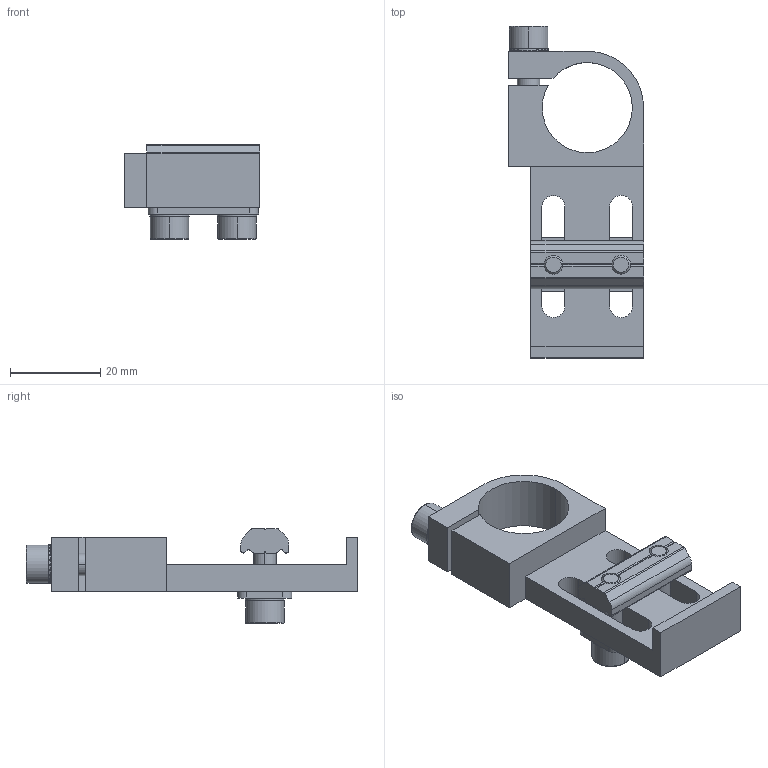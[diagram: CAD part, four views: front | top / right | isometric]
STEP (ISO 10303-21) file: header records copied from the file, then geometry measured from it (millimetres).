
FILE_DESCRIPTION (( 'STEP AP214' ), '1' );
FILE_NAME ('SMBE-2022.STEP', '2019-11-19T05:29:20', ( '微软用户' ), ( '微软中国' ), 'SwSTEP 2.0', 'SolidWorks 2016', '' );
FILE_SCHEMA (( 'AUTOMOTIVE_DESIGN' ));
Length unit declared in the file: millimetre
Products named in the file (1): SMBE-2022
Bounding box: 30 x 73.6 x 21 mm (x, y, z)
Volume: 12830 mm3; surface area: 9939.1 mm2
Topology: 9 solids, 9 shells, 737 faces, 2136 edges, 1414 vertices
Faces by surface type: plane 659, cylinder 66, cone 6, bspline 6
Entity records: 33111 total; most frequent: CARTESIAN_POINT 4885, ORIENTED_EDGE 4272, DIRECTION 4244, EDGE_CURVE 2136, AXIS2_PLACEMENT_3D 1420, VERTEX_POINT 1414, LINE 1404, VECTOR 1404
